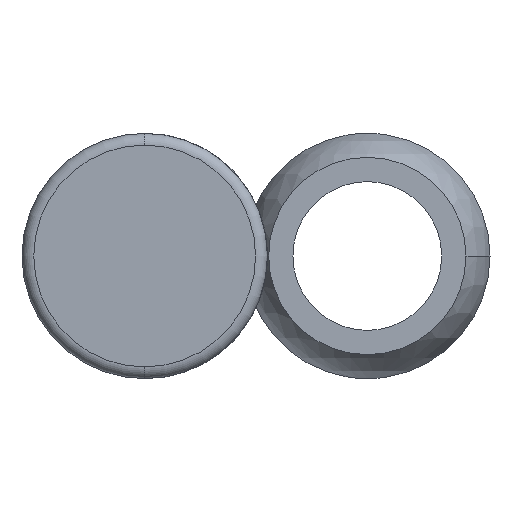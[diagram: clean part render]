
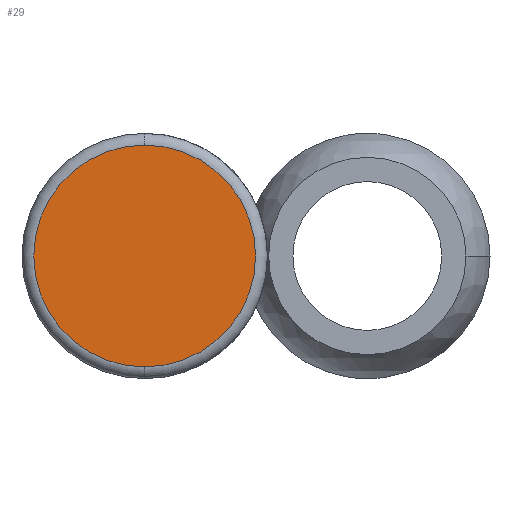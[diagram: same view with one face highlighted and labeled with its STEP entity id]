
A CAD part, front view. The second image highlights one B-rep face of the part: STEP entity #29.
In plain terms, the highlighted planar face has unit normal (0, -1, 0).
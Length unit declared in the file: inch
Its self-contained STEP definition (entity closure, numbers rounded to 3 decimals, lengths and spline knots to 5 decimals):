
#21 = AXIS2_PLACEMENT_3D ( 'NONE', #25, #668, #121 ) ;
#25 = CARTESIAN_POINT ( 'NONE',  ( 0., -1.075, 0. ) ) ;
#29 = ADVANCED_FACE ( 'NONE', ( #537 ), #118, .F. ) ;
#118 = PLANE ( 'NONE',  #1028 ) ;
#121 = DIRECTION ( 'NONE',  ( 0., 0., 1. ) ) ;
#128 = AXIS2_PLACEMENT_3D ( 'NONE', #1097, #264, #1197 ) ;
#137 = EDGE_LOOP ( 'NONE', ( #887, #227 ) ) ;
#181 = VERTEX_POINT ( 'NONE', #553 ) ;
#227 = ORIENTED_EDGE ( 'NONE', *, *, #731, .T. ) ;
#264 = DIRECTION ( 'NONE',  ( 0., -1., 0. ) ) ;
#276 = CIRCLE ( 'NONE', #21, 0.2825 ) ;
#396 = CARTESIAN_POINT ( 'NONE',  ( 0., -1.075, -0.2825 ) ) ;
#404 = EDGE_CURVE ( 'NONE', #181, #667, #276, .T. ) ;
#537 = FACE_OUTER_BOUND ( 'NONE', #137, .T. ) ;
#553 = CARTESIAN_POINT ( 'NONE',  ( 0., -1.075, 0.2825 ) ) ;
#601 = DIRECTION ( 'NONE',  ( 0., 1., 0. ) ) ;
#667 = VERTEX_POINT ( 'NONE', #396 ) ;
#668 = DIRECTION ( 'NONE',  ( 0., -1., 0. ) ) ;
#688 = DIRECTION ( 'NONE',  ( 0., 0., 1. ) ) ;
#731 = EDGE_CURVE ( 'NONE', #667, #181, #1161, .T. ) ;
#887 = ORIENTED_EDGE ( 'NONE', *, *, #404, .T. ) ;
#959 = CARTESIAN_POINT ( 'NONE',  ( 0., -1.075, 0. ) ) ;
#1028 = AXIS2_PLACEMENT_3D ( 'NONE', #959, #601, #688 ) ;
#1097 = CARTESIAN_POINT ( 'NONE',  ( 0., -1.075, 0. ) ) ;
#1161 = CIRCLE ( 'NONE', #128, 0.2825 ) ;
#1197 = DIRECTION ( 'NONE',  ( 0., 0., 1. ) ) ;
